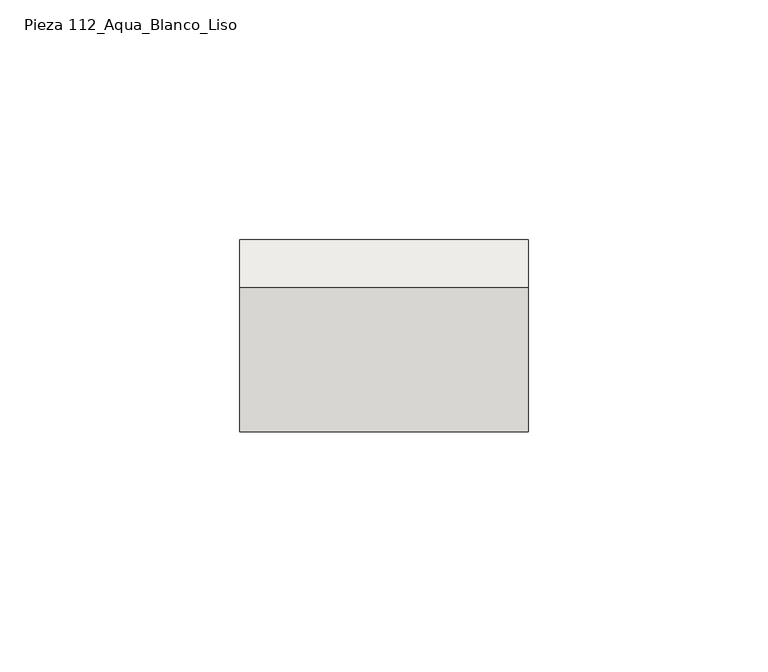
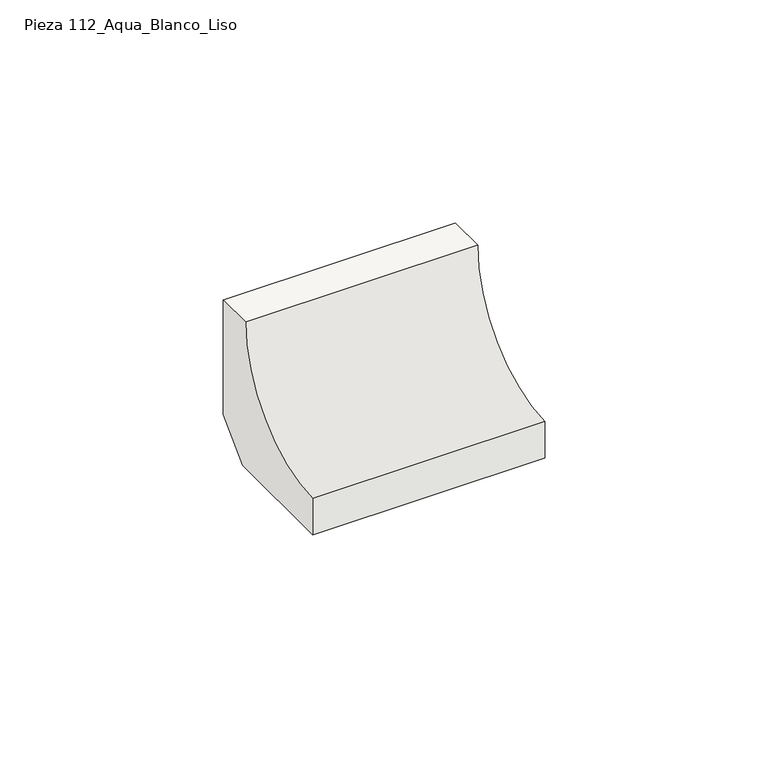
"""IFC4 building model written with IfcOpenShell, lengths in millimetres: slab geometry, ROSA GRES_112 : Pieza 112_Aqua_Blanco_Liso."""

from ifc_helpers import new_model, si_unit, point, frame, frame_2d, origin, place, context, project, spatial, polyline, circle_curve, trimmed, segment, composite_curve, outline, extrude, source, transform, mapped, element, save


def pieza_112_aqua_blanco_liso_8ea5cdf8(model_context):
    return source(origin(), model_context, "Body", "SweptSolid", [
        extrude(outline(composite_curve([segment(polyline([(9.9734114, 8.7114978), (1.2619137, 0.0), (-30.0265886, 0.0), (-30.0265886, 9.9734114)]), True, "CONTINUOUS"), segment(trimmed(circle_curve(frame_2d((-30.0221432, 39.9955547)), 30.0221435), [point((-30.0265886, 9.9734114))], [point((0.0, 40.0))], True, "CARTESIAN"), True, "CONTINUOUS"), segment(polyline([(0.0, 40.0), (9.9734114, 40.0), (9.9734114, 8.7114978)]), True, "CONTINUOUS")], self_intersect=False)), frame((0.0, 0.0, 0.0), z_axis=(1.0, 0.0, 0.0), x_axis=(0.0, 1.0, 0.0)), (0.0, 0.0, 1.0), 60.0265883),
    ])


if __name__ == "__main__":
    model = new_model("IFC4")
    model_context = context("Model", 3, world=origin())
    ifc_project = project(units=[si_unit("LENGTHUNIT", "METRE", prefix="MILLI")], contexts=[model_context])
    site = spatial("IfcSite", under=ifc_project)
    building = spatial("IfcBuilding", under=site)
    placement = place(None, origin())
    pieza_112_aqua_blanco_liso_shape = pieza_112_aqua_blanco_liso_8ea5cdf8(model_context)
    element("IfcSlab", 1, ObjectType="ROSA GRES_112 : Pieza 112_Aqua_Blanco_Liso", at=placement, inside=building, context=model_context, shape_type="MappedRepresentation", body=[
        mapped(pieza_112_aqua_blanco_liso_shape, transform((0.0, 0.0, 0.0), x_axis=(1.0, 0.0, 0.0), y_axis=(0.0, 1.0, 0.0), z_axis=(0.0, 0.0, 1.0))),
    ])
    save(model, "model.ifc")
